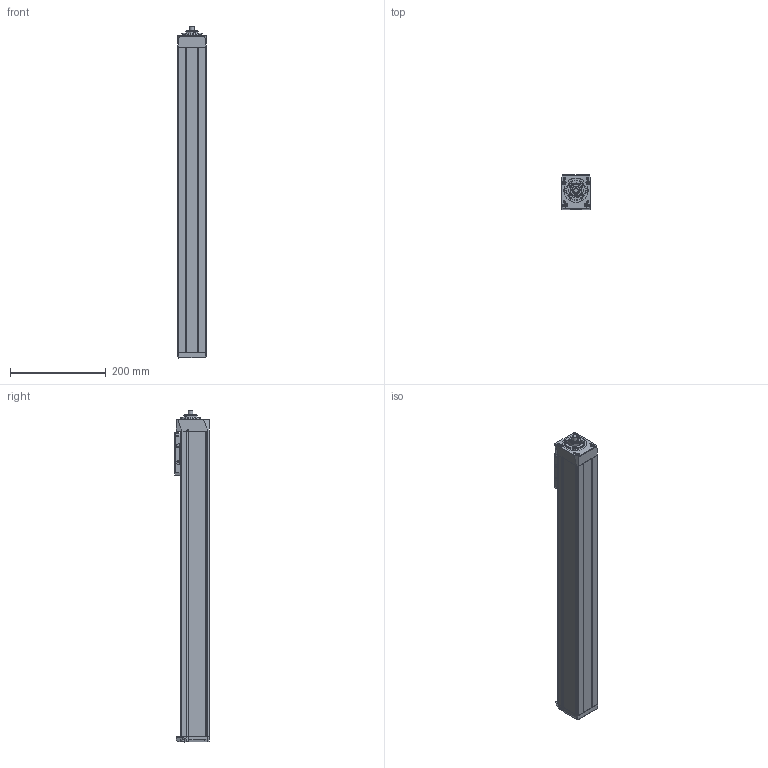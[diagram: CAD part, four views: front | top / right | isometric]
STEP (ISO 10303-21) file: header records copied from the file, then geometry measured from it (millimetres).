
FILE_DESCRIPTION(/* description */ ('STEP AP214'),/* implementation_level */ '2;1');
FILE_NAME(/* name */ 'MGBS 60 1210 500(0)',/* time_stamp */ '2023-04-17T13:20:20+02:00',/* author */ ('License CC BY-ND 4.0'),/* organization */ ('CADENAS'),/* preprocessor_version */ 'ST-DEVELOPER v19.3',/* originating_system */ 'PARTsolutions',/* authorisation */ ' ');
FILE_SCHEMA (('AUTOMOTIVE_DESIGN {1 0 10303 214 3 1 1}'));
Length unit declared in the file: millimetre
Products named in the file (6): MGBS 60 1210 500(0); MGBS 60 500_protection_strip; MGBS 60_carriage; MGBS 60_end_block; MGBS 60 500_profile; MGBS 60_drive_block
Assembly tree (5 placements, depth 2):
  MGBS 60 1210 500(0)
    MGBS 60 500_protection_strip
    MGBS 60_carriage
    MGBS 60_end_block
    MGBS 60 500_profile
    MGBS 60_drive_block
Bounding box: 60 x 72 x 692 mm (x, y, z)
Volume: 2383730.6 mm3; surface area: 298053.7 mm2
Topology: 5 solids, 5 shells, 694 faces, 1756 edges, 1135 vertices
Faces by surface type: plane 366, cylinder 144, cone 97, bspline 62, torus 23, sphere 2
Full cylindrical faces by diameter (mm): 2.459 x2, 2.46 x2, 3.242 x4, 4 x14, 4.134 x8, 4.8 x2, 5 x2, 5.5 x4, 7 x8, 7.6 x4, 8 x2, 10 x1, 11 x3, 23.8 x1, 30 x1, 42 x2, 50.2 x1
Entity records: 24817 total; most frequent: CARTESIAN_POINT 4104, DIRECTION 3372, ORIENTED_EDGE 3194, EDGE_CURVE 1597, AXIS2_PLACEMENT_3D 1197, VERTEX_POINT 1113, LINE 978, VECTOR 978
